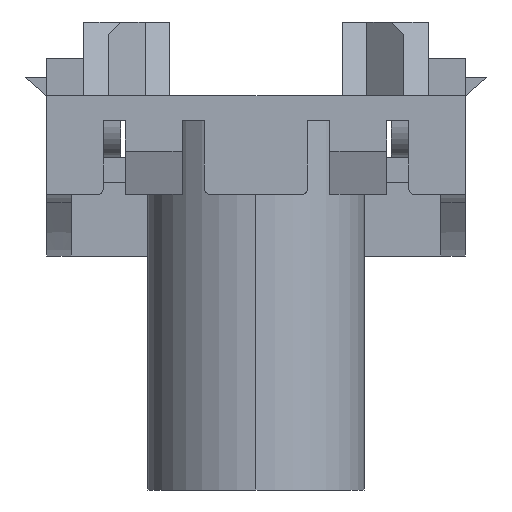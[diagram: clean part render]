
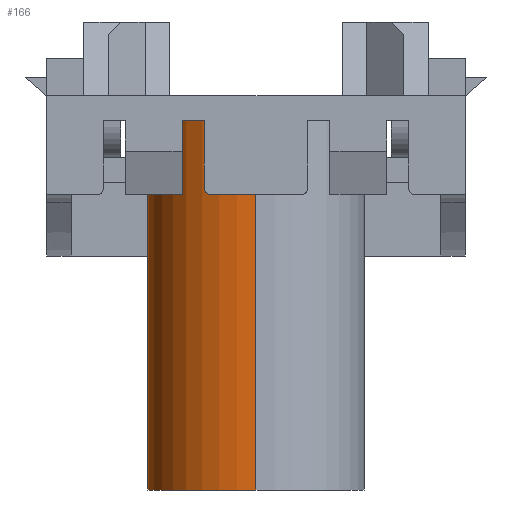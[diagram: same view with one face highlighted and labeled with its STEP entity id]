
A CAD part, left-side view. The second image highlights one B-rep face of the part: STEP entity #166.
In plain terms, the highlighted cylindrical face has radius 8.8 mm (diameter 17.6 mm), a partial arc.
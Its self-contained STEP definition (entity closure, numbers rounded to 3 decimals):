
#57=CARTESIAN_POINT('Line Origine',(33.543,18.,10.097)) ;
#61=CARTESIAN_POINT('Vertex',(33.543,18.,6.158)) ;
#63=CARTESIAN_POINT('Vertex',(33.543,18.,14.036)) ;
#92=CARTESIAN_POINT('Axis2P3D Location',(24.8,17.,17.5)) ;
#98=CARTESIAN_POINT('Control Point',(33.6,17.,5.08)) ;
#99=CARTESIAN_POINT('Control Point',(33.6,17.057,5.083)) ;
#100=CARTESIAN_POINT('Control Point',(33.599,17.115,5.09)) ;
#101=CARTESIAN_POINT('Control Point',(33.598,17.171,5.103)) ;
#102=CARTESIAN_POINT('Vertex',(33.6,17.,5.08)) ;
#104=CARTESIAN_POINT('Vertex',(33.598,17.171,5.103)) ;
#107=CARTESIAN_POINT('Line Origine',(33.6,17.,17.5)) ;
#111=CARTESIAN_POINT('Vertex',(33.6,17.,0.)) ;
#114=CARTESIAN_POINT('Axis2P3D Location',(24.8,17.,0.)) ;
#118=CARTESIAN_POINT('Vertex',(16.,17.,0.)) ;
#121=CARTESIAN_POINT('Line Origine',(16.,17.,17.5)) ;
#125=CARTESIAN_POINT('Vertex',(16.,17.,32.)) ;
#128=CARTESIAN_POINT('Axis2P3D Location',(24.8,17.,32.)) ;
#132=CARTESIAN_POINT('Vertex',(33.6,17.,32.)) ;
#135=CARTESIAN_POINT('Line Origine',(33.6,17.,17.5)) ;
#139=CARTESIAN_POINT('Vertex',(33.6,17.,14.045)) ;
#143=CARTESIAN_POINT('Control Point',(33.6,17.,14.045)) ;
#144=CARTESIAN_POINT('Control Point',(33.6,17.334,14.045)) ;
#145=CARTESIAN_POINT('Control Point',(33.581,17.668,14.042)) ;
#146=CARTESIAN_POINT('Control Point',(33.543,18.,14.036)) ;
#149=CARTESIAN_POINT('Control Point',(33.543,18.,6.158)) ;
#150=CARTESIAN_POINT('Control Point',(33.543,18.,5.795)) ;
#151=CARTESIAN_POINT('Control Point',(33.563,17.844,5.428)) ;
#152=CARTESIAN_POINT('Control Point',(33.591,17.524,5.183)) ;
#153=CARTESIAN_POINT('Control Point',(33.598,17.171,5.103)) ;
#59=VECTOR('Line Direction',#58,1.) ;
#109=VECTOR('Line Direction',#108,1.) ;
#123=VECTOR('Line Direction',#122,1.) ;
#137=VECTOR('Line Direction',#136,1.) ;
#58=DIRECTION('Vector Direction',(0.,0.,1.)) ;
#93=DIRECTION('Axis2P3D Direction',(0.,0.,-1.)) ;
#94=DIRECTION('Axis2P3D XDirection',(1.,0.,0.)) ;
#108=DIRECTION('Vector Direction',(0.,0.,-1.)) ;
#115=DIRECTION('Axis2P3D Direction',(0.,0.,-1.)) ;
#122=DIRECTION('Vector Direction',(0.,0.,-1.)) ;
#129=DIRECTION('Axis2P3D Direction',(0.,0.,-1.)) ;
#136=DIRECTION('Vector Direction',(0.,0.,-1.)) ;
#95=AXIS2_PLACEMENT_3D('Cylinder Axis2P3D',#92,#93,#94) ;
#116=AXIS2_PLACEMENT_3D('Circle Axis2P3D',#114,#115,$) ;
#130=AXIS2_PLACEMENT_3D('Circle Axis2P3D',#128,#129,$) ;
#60=LINE('Line',#57,#59) ;
#110=LINE('Line',#107,#109) ;
#124=LINE('Line',#121,#123) ;
#138=LINE('Line',#135,#137) ;
#117=CIRCLE('generated circle',#116,8.8) ;
#131=CIRCLE('generated circle',#130,8.8) ;
#96=CYLINDRICAL_SURFACE('generated cylinder',#95,8.8) ;
#65=EDGE_CURVE('',#62,#64,#60,.T.) ;
#106=EDGE_CURVE('',#103,#105,#97,.T.) ;
#113=EDGE_CURVE('',#103,#112,#110,.T.) ;
#120=EDGE_CURVE('',#112,#119,#117,.F.) ;
#127=EDGE_CURVE('',#119,#126,#124,.F.) ;
#134=EDGE_CURVE('',#133,#126,#131,.F.) ;
#141=EDGE_CURVE('',#140,#133,#138,.F.) ;
#147=EDGE_CURVE('',#140,#64,#142,.T.) ;
#154=EDGE_CURVE('',#105,#62,#148,.F.) ;
#156=ORIENTED_EDGE('',*,*,#106,.F.) ;
#157=ORIENTED_EDGE('',*,*,#113,.T.) ;
#158=ORIENTED_EDGE('',*,*,#120,.T.) ;
#159=ORIENTED_EDGE('',*,*,#127,.T.) ;
#160=ORIENTED_EDGE('',*,*,#134,.F.) ;
#161=ORIENTED_EDGE('',*,*,#141,.F.) ;
#162=ORIENTED_EDGE('',*,*,#147,.T.) ;
#163=ORIENTED_EDGE('',*,*,#65,.F.) ;
#164=ORIENTED_EDGE('',*,*,#154,.F.) ;
#155=EDGE_LOOP('',(#156,#157,#158,#159,#160,#161,#162,#163,#164)) ;
#62=VERTEX_POINT('',#61) ;
#64=VERTEX_POINT('',#63) ;
#103=VERTEX_POINT('',#102) ;
#105=VERTEX_POINT('',#104) ;
#112=VERTEX_POINT('',#111) ;
#119=VERTEX_POINT('',#118) ;
#126=VERTEX_POINT('',#125) ;
#133=VERTEX_POINT('',#132) ;
#140=VERTEX_POINT('',#139) ;
#166=ADVANCED_FACE('PartBody',(#165),#96,.T.) ;
#97=B_SPLINE_CURVE_WITH_KNOTS('',3,(#98,#99,#100,#101),.UNSPECIFIED.,.F.,.U.,(4,4),(0.,0.244),.UNSPECIFIED.) ;
#142=B_SPLINE_CURVE_WITH_KNOTS('',3,(#143,#144,#145,#146),.UNSPECIFIED.,.F.,.U.,(4,4),(0.,1.417),.UNSPECIFIED.) ;
#148=B_SPLINE_CURVE_WITH_KNOTS('',4,(#149,#150,#151,#152,#153),.UNSPECIFIED.,.F.,.U.,(5,5),(0.,2.052),.UNSPECIFIED.) ;
#165=FACE_OUTER_BOUND('',#155,.T.) ;
